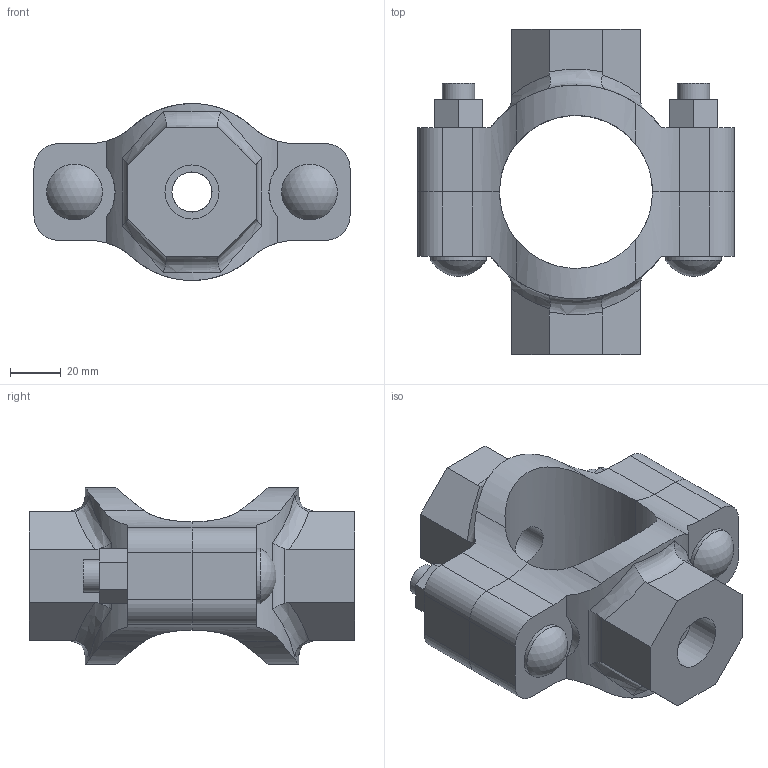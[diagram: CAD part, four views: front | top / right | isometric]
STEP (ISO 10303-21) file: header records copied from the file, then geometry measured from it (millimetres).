
FILE_DESCRIPTION(/* description */ ('VIC MECH-T BRANCH OUTLET CROSS STYLE 920N (THD)','CAx-IF Rec.Pracs.---Representation and Presentation of Product Manufacturing Information (PMI)---4.0---2014-10-13'),/* implementation_level */ '2;1');
FILE_NAME(/* name */ 'C:\Users\Vjadhav\AppData\Roaming\Autodesk\ApplicationPlugins\Back Up\Victaulic_IPS_Mechanical-Cross Outlet_Style 920N (FPT)\Victaulic_IPS_Mechanical-Cross Outlet_02.0x0.5x0.5 (50x15x15).stp',/* time_stamp */ '2020-08-06T18:55:43+05:00',/* author */ ('Vjadhav'),/* organization */ ('Victaulic'),/* preprocessor_version */ 'ST-DEVELOPER v17.2',/* originating_system */ 'Autodesk Inventor 2019',/* authorisation */ '');
FILE_SCHEMA (('AP242_MANAGED_MODEL_BASED_3D_ENGINEERING_MIM_LF { 1 0 10303 442 1 1 4 }'));
Length unit declared in the file: inch
Products named in the file (3): 920NT-02.0x0.5x0.5; 920NT-02.0x0.5; 920NT-02.0x0.5_1
Assembly tree (2 placements, depth 2):
  920NT-02.0x0.5x0.5
    920NT-02.0x0.5
    920NT-02.0x0.5_1
Bounding box: 124.71 x 128.52 x 69.83 mm (x, y, z)
Volume: 314531.9 mm3; surface area: 65796.2 mm2
Topology: 2 solids, 2 shells, 132 faces, 350 edges, 236 vertices
Faces by surface type: plane 68, cylinder 50, bspline 8, torus 4, sphere 2
Full cylindrical faces by diameter (mm): 12.7 x4, 15.799 x2, 21.336 x2, 21.982 x2
Entity records: 5030 total; most frequent: CARTESIAN_POINT 1517, ORIENTED_EDGE 700, DIRECTION 648, EDGE_CURVE 350, VERTEX_POINT 236, AXIS2_PLACEMENT_3D 231, LINE 186, VECTOR 186
